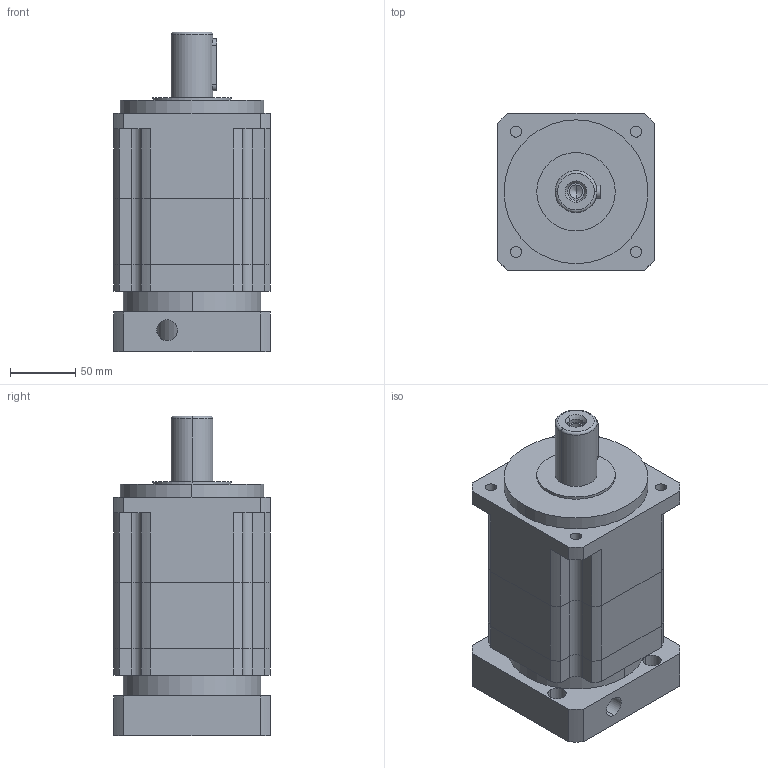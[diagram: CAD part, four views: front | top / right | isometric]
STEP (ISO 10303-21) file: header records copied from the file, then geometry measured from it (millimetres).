
FILE_DESCRIPTION (( 'STEP AP203' ), '1' );
FILE_NAME ('PAG120-L2 19-95-130.STEP', '2022-07-18T08:36:29', ( 'Windows User' ), ( 'P R C' ), 'SwSTEP 2.0', 'SolidWorks 2016', '' );
FILE_SCHEMA (( 'CONFIG_CONTROL_DESIGN' ));
Length unit declared in the file: millimetre
Products named in the file (8): PAG120-L2 19-95-130; PAG120-本体齿圈; PAG120-薊粣ん-19_LZ03; PAG120-蟀諉-19-95-M8-130-LR60; 囀鞠褒蹟佪-M8℅25; 邧埴瑩 10x8x40; 粣創-6009 45x75x16; PAG120-二级齿圈
Assembly tree (7 placements, depth 2):
  PAG120-L2 19-95-130
    PAG120-本体齿圈
    PAG120-薊粣ん-19_LZ03
    PAG120-蟀諉-19-95-M8-130-LR60
    囀鞠褒蹟佪-M8℅25
    邧埴瑩 10x8x40
    粣創-6009 45x75x16
    PAG120-二级齿圈
Bounding box: 120 x 120 x 244.5 mm (x, y, z)
Volume: 2247798.3 mm3; surface area: 255297.2 mm2
Topology: 7 solids, 7 shells, 1016 faces, 2828 edges, 1867 vertices
Faces by surface type: plane 543, cylinder 164, bspline 160, sphere 83, torus 50, cone 16
Entity records: 44441 total; most frequent: CARTESIAN_POINT 18839, ORIENTED_EDGE 5552, DIRECTION 4449, EDGE_CURVE 2776, VERTEX_POINT 1838, VECTOR 1577, LINE 1577, AXIS2_PLACEMENT_3D 1436
